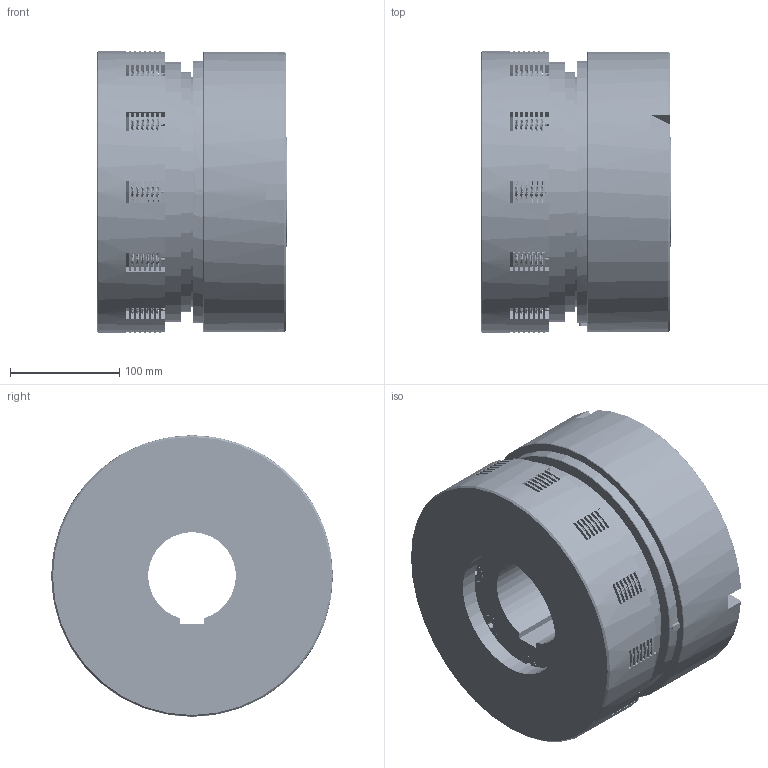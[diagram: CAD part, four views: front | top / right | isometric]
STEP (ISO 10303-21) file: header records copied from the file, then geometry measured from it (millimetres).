
FILE_DESCRIPTION(/* description */ (''),/* implementation_level */ '2;1');
FILE_NAME(/* name */ 'T:\INVENTOR\DISEGNI\03_Friz_Oleod_Pneum_Cil_Stat\03_08 LP\03_08_012_01 LP012\03_08_012_01 LP12+Cup@STEP.stp',/* time_stamp */ '2022-03-02T11:16:05+01:00',/* author */ ('w.sartori'),/* organization */ (''),/* preprocessor_version */ 'ST-DEVELOPER v18.1',/* originating_system */ 'Autodesk Inventor 2021',/* authorisation */ '');
FILE_SCHEMA (('AUTOMOTIVE_DESIGN { 1 0 10303 214 3 1 1 }'));
Products named in the file (1): 03_08_012_01 LP12+Cup
Bounding box: 174 x 257 x 257 mm (x, y, z)
Volume: 6338845.6 mm3; surface area: 1349079.5 mm2
Topology: 32 solids, 58 shells, 2760 faces, 8353 edges, 5524 vertices
Faces by surface type: cylinder 1456, plane 874, torus 182, cone 132, bspline 72, sphere 44
Full cylindrical faces by diameter (mm): 2 x12, 2.75 x84, 3.5 x2, 4 x2, 8.376 x8, 10 x8, 10.5 x8, 12 x1, 14.95 x1, 19.22 x8, 20 x8, 96.5 x1, 100 x4, 115 x1, 115.95 x4, 116 x2, 120 x2, 132.3 x2, 134 x2, 138 x1, 138.3 x2, 140 x2, 150 x4, 160 x3, 162.6 x4, 162.934 x1, 165 x1, 168 x5, 171.152 x1, 172 x1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
Entity records: 133528 total; most frequent: CARTESIAN_POINT 52420, DIRECTION 17207, ORIENTED_EDGE 16612, EDGE_CURVE 8306, AXIS2_PLACEMENT_3D 6996, VERTEX_POINT 5648, CIRCLE 4292, EDGE_LOOP 3430
